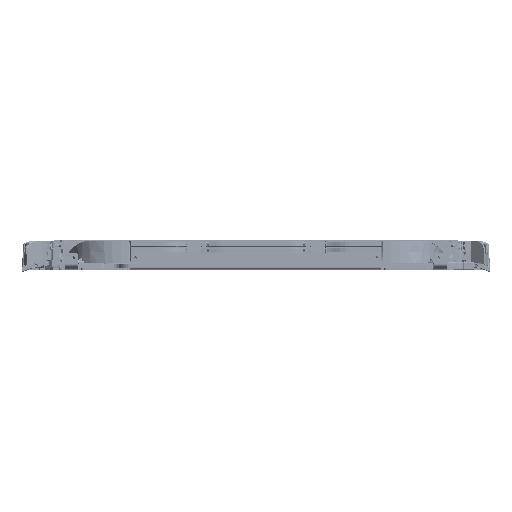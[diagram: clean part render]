
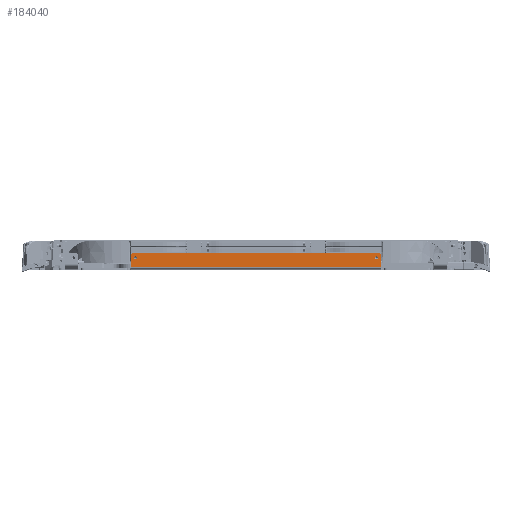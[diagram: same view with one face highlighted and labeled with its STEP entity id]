
A CAD part, left-side view. The second image highlights one B-rep face of the part: STEP entity #184040.
In plain terms, the highlighted planar face has unit normal (-1, 0, 0).
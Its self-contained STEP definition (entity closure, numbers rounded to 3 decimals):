
#75177=LINE('',#863572,#120705);
#75180=LINE('',#863582,#120708);
#75417=LINE('',#864408,#120945);
#75418=LINE('',#864411,#120946);
#120705=VECTOR('',#665787,1.);
#120708=VECTOR('',#665796,1.);
#120945=VECTOR('',#666655,1.);
#120946=VECTOR('',#666658,1.);
#155730=PLANE('',#577443);
#184040=ADVANCED_FACE('',(#207947,#207948,#207949),#155730,.T.);
#207947=FACE_BOUND('',#221184,.T.);
#207948=FACE_BOUND('',#221185,.T.);
#207949=FACE_BOUND('',#221186,.T.);
#221184=EDGE_LOOP('',(#299980));
#221185=EDGE_LOOP('',(#299981));
#221186=EDGE_LOOP('',(#299982,#299983,#299984,#299985,#299986,#299987));
#299980=ORIENTED_EDGE('',*,*,#488270,.T.);
#299981=ORIENTED_EDGE('',*,*,#488271,.T.);
#299982=ORIENTED_EDGE('',*,*,#487827,.T.);
#299983=ORIENTED_EDGE('',*,*,#488272,.T.);
#299984=ORIENTED_EDGE('',*,*,#488273,.T.);
#299985=ORIENTED_EDGE('',*,*,#488274,.T.);
#299986=ORIENTED_EDGE('',*,*,#487832,.T.);
#299987=ORIENTED_EDGE('',*,*,#488275,.T.);
#426049=VERTEX_POINT('',#863571);
#426050=VERTEX_POINT('',#863573);
#426053=VERTEX_POINT('',#863581);
#426054=VERTEX_POINT('',#863583);
#426329=VERTEX_POINT('',#864403);
#426330=VERTEX_POINT('',#864405);
#426331=VERTEX_POINT('',#864407);
#426332=VERTEX_POINT('',#864409);
#487827=EDGE_CURVE('',#426050,#426049,#75177,.T.);
#487832=EDGE_CURVE('',#426054,#426053,#75180,.T.);
#488270=EDGE_CURVE('',#426329,#426329,#548068,.T.);
#488271=EDGE_CURVE('',#426330,#426330,#548069,.T.);
#488272=EDGE_CURVE('',#426049,#426331,#548070,.T.);
#488273=EDGE_CURVE('',#426331,#426332,#75417,.T.);
#488274=EDGE_CURVE('',#426332,#426054,#548071,.T.);
#488275=EDGE_CURVE('',#426053,#426050,#75418,.T.);
#548068=CIRCLE('',#577439,1.7);
#548069=CIRCLE('',#577440,1.7);
#548070=CIRCLE('',#577441,3.);
#548071=CIRCLE('',#577442,3.);
#577439=AXIS2_PLACEMENT_3D('',#864402,#666649,#666650);
#577440=AXIS2_PLACEMENT_3D('',#864404,#666651,#666652);
#577441=AXIS2_PLACEMENT_3D('',#864406,#666653,#666654);
#577442=AXIS2_PLACEMENT_3D('',#864410,#666656,#666657);
#577443=AXIS2_PLACEMENT_3D('',#864412,#666659,#666660);
#665787=DIRECTION('',(0.,0.,1.));
#665796=DIRECTION('',(0.,0.,-1.));
#666649=DIRECTION('',(1.,0.,0.));
#666650=DIRECTION('',(0.,0.,1.));
#666651=DIRECTION('',(1.,0.,0.));
#666652=DIRECTION('',(0.,0.,1.));
#666653=DIRECTION('',(-1.,0.,0.));
#666654=DIRECTION('',(0.,0.,1.));
#666655=DIRECTION('',(0.,1.,0.));
#666656=DIRECTION('',(-1.,0.,0.));
#666657=DIRECTION('',(0.,0.,1.));
#666658=DIRECTION('',(0.,-1.,0.));
#666659=DIRECTION('',(-1.,0.,0.));
#666660=DIRECTION('',(0.,0.,1.));
#863571=CARTESIAN_POINT('',(-129.55,-135.,-1.));
#863572=CARTESIAN_POINT('',(-129.55,-135.,-14.267));
#863573=CARTESIAN_POINT('',(-129.55,-135.,-12.5));
#863581=CARTESIAN_POINT('',(-129.55,135.,-12.5));
#863582=CARTESIAN_POINT('',(-129.55,135.,2.));
#863583=CARTESIAN_POINT('',(-129.55,135.,-1.));
#864402=CARTESIAN_POINT('',(-129.55,-130.,-3.));
#864403=CARTESIAN_POINT('',(-129.55,-130.,-1.3));
#864404=CARTESIAN_POINT('',(-129.55,130.,-3.));
#864405=CARTESIAN_POINT('',(-129.55,130.,-1.3));
#864406=CARTESIAN_POINT('',(-129.55,-132.,-1.));
#864407=CARTESIAN_POINT('',(-129.55,-132.,2.));
#864408=CARTESIAN_POINT('',(-129.55,-135.,2.));
#864409=CARTESIAN_POINT('',(-129.55,132.,2.));
#864410=CARTESIAN_POINT('',(-129.55,132.,-1.));
#864411=CARTESIAN_POINT('',(-129.55,135.,-12.5));
#864412=CARTESIAN_POINT('',(-129.55,-290.,-15.5));
